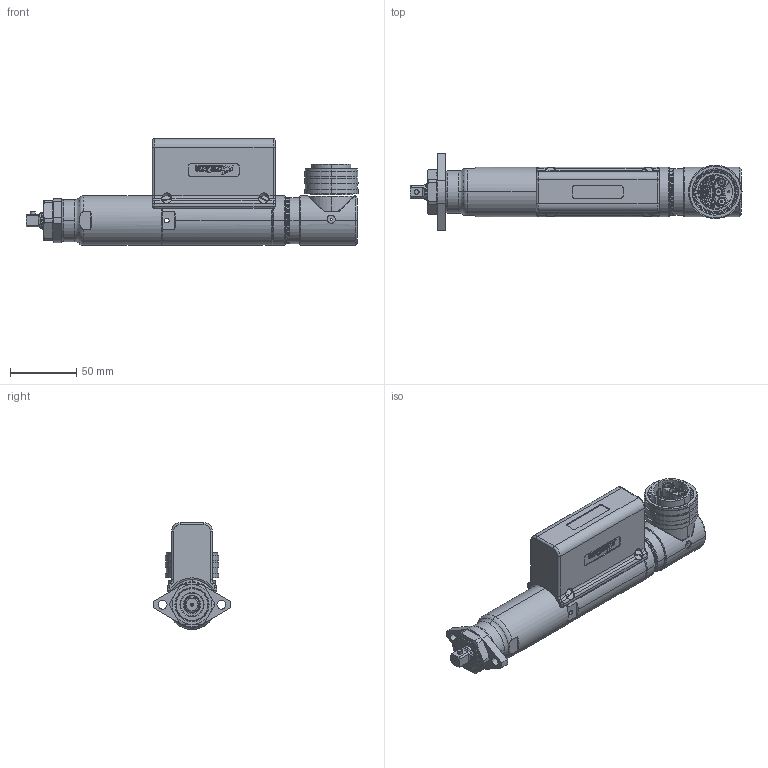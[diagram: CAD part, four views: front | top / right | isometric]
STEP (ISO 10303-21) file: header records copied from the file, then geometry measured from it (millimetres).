
FILE_DESCRIPTION (( 'STEP AP203' ), '1' );
FILE_NAME ('AEF4X12011BB, AEF4X12014BB, AEF4X12018BB & AEF4X12022BB.STEP', '2012-06-22T15:44:45', ( 'AIMCO' ), ( '' ), 'SwSTEP 2.0', 'SolidWorks 2012', '' );
FILE_SCHEMA (( 'CONFIG_CONTROL_DESIGN' ));
Length unit declared in the file: inch
Products named in the file (1): AEF4X12011BB, AEF4X12014BB, AEF4X12018BB & AEF4X12022BB
Bounding box: 250.69 x 58.71 x 80.57 mm (x, y, z)
Surface area: 62106.4 mm2 (no closed solid volume)
Topology: 0 solids, 77 shells, 916 faces, 3789 edges, 2932 vertices
Faces by surface type: plane 535, cylinder 195, torus 92, cone 85, bspline 5, sphere 4
Entity records: 41124 total; most frequent: CARTESIAN_POINT 10872, DIRECTION 6107, ORIENTED_EDGE 5291, EDGE_CURVE 3781, VERTEX_POINT 2928, LINE 2805, VECTOR 2805, AXIS2_PLACEMENT_3D 1651
